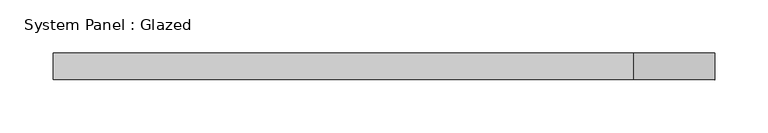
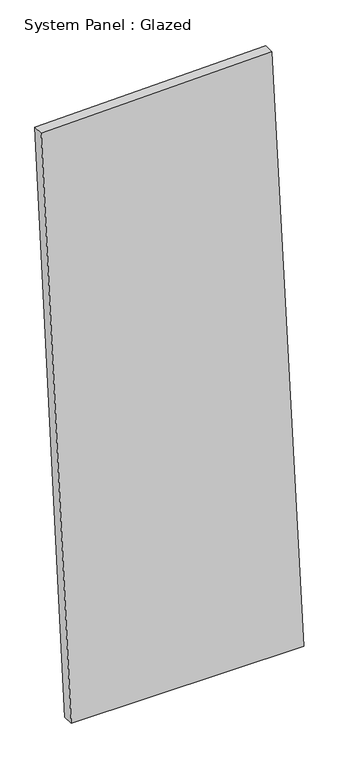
"""IFC4 building model written with IfcOpenShell, lengths in millimetres: plate geometry, System Panel : Glazed."""

from ifc_helpers import new_model, si_unit, frame, origin, place, context, project, spatial, polyline, outline, extrude, source, transform, mapped, element, save


def system_panel_glazed_05b2a0f3(model_context):
    return source(origin(), model_context, "Body", "SweptSolid", [
        extrude(outline(polyline([(0.0, -240.7236692), (0.0, 311.9349857), (1517.8003423, 235.4938967), (1504.550795, -311.9349857), (0.0, -240.7236692)])), frame((0.0, -44.45, 0.0), z_axis=(0.0, 1.0, 0.0), x_axis=(0.0, 0.0, 1.0)), (0.0, 0.0, 1.0), 25.4),
    ])


if __name__ == "__main__":
    model = new_model("IFC4")
    model_context = context("Model", 3, world=origin())
    ifc_project = project(units=[si_unit("LENGTHUNIT", "METRE", prefix="MILLI")], contexts=[model_context])
    site = spatial("IfcSite", under=ifc_project)
    building = spatial("IfcBuilding", under=site)
    placement = place(None, origin())
    system_panel_glazed_shape = system_panel_glazed_05b2a0f3(model_context)
    element("IfcPlate", 1, ObjectType="System Panel : Glazed", at=placement, inside=building, context=model_context, shape_type="MappedRepresentation", body=[
        mapped(system_panel_glazed_shape, transform((0.0, 0.0, 0.0), x_axis=(1.0, 0.0, 0.0), y_axis=(0.0, 1.0, 0.0), z_axis=(0.0, 0.0, 1.0))),
    ])
    save(model, "model.ifc")
